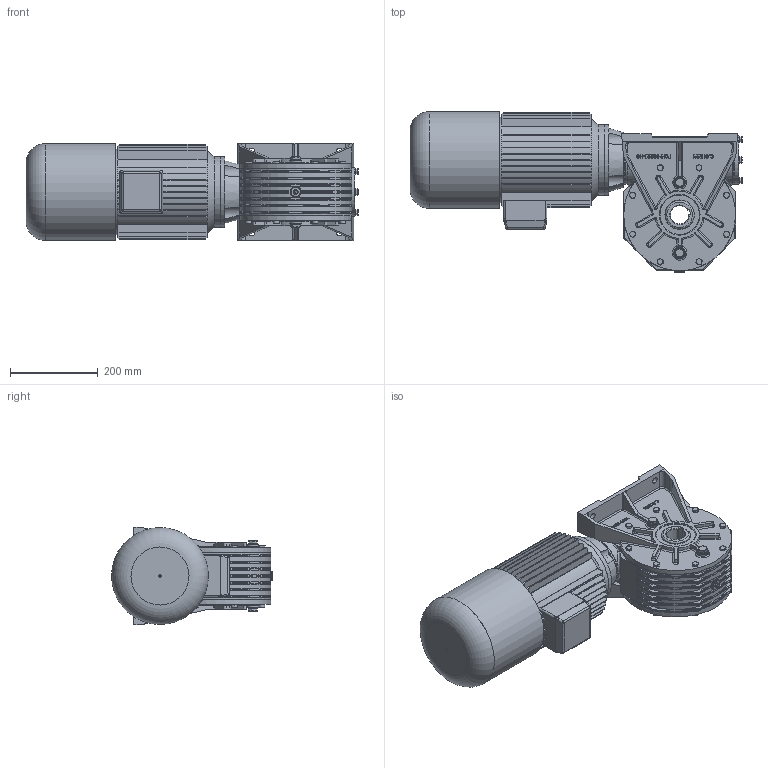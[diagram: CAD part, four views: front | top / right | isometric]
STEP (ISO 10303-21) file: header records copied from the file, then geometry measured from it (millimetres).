
FILE_DESCRIPTION((''),'2;1');
FILE_NAME('Y:\Archivi Inventor\Prog_01\GRAND_60\FIGURINI\MRV60 sito\112M AUTOFRENANTE\MRV60_P1_112M_B14.stp','2013-02-08T14:36:16',('tech3'),(''),'Autodesk Inventor 2013','Autodesk Inventor 2013','');
FILE_SCHEMA(('AUTOMOTIVE_DESIGN { 1 0 10303 214 1 1 1 1 }'));
Length unit declared in the file: millimetre
Products named in the file (18): MRV60_100L_112M_B14.iam<Livello di dettaglio1>; MRV60_FIG; 0106001.A0 figurino; 0106010.A0 figurino; 0106009; UNI 5739 M8 x 20; figurino corona; PARAOLIO 65x90x10; 0106028; 0106029; UNI 5739 M8 x 25; Guarnizione 3_8 GAS; Tappo3_8 GAS; Tappo 3_8 GAS_esagn_incsst; DIN EN ISO 4762 M8 x 16; UNI 8839 A 8; 0106006; motori B14 brake 112
Assembly tree (53 placements, depth 3):
  MRV60_100L_112M_B14.iam<Livello di dettaglio1>
    MRV60_FIG
      0106001.A0 figurino
      0106010.A0 figurino  x2
      0106009
      UNI 5739 M8 x 20  x4
      figurino corona
      PARAOLIO 65x90x10  x2
      0106028
      0106029  x2
      UNI 5739 M8 x 25  x8
      Guarnizione 3_8 GAS  x6
      Tappo3_8 GAS  x4
      Tappo 3_8 GAS_esagn_incsst  x2
      DIN EN ISO 4762 M8 x 16  x12
      UNI 8839 A 8  x4
    0106006
    motori B14 brake 112
Bounding box: 757.35 x 367 x 221.7 mm (x, y, z)
Volume: 17238175.1 mm3; surface area: 1766762.4 mm2
Topology: 53 solids, 57 shells, 2669 faces, 6580 edges, 4056 vertices
Faces by surface type: plane 1160, cylinder 611, bspline 564, cone 161, torus 125, sphere 48
Full cylindrical faces by diameter (mm): 2 x2, 5 x1, 6.647 x28, 8 x26, 8.5 x40, 8.75 x4, 9 x4, 11.63 x12, 13 x12, 13.046 x4, 14 x4, 14.95 x6, 16.3 x6, 16.5 x2, 22 x12, 25 x6, 28 x1, 42 x1, 65 x2, 70 x1, 72.881 x2, 80 x5, 83.5 x2, 90 x5, 109 x1, 109.5 x1, 110 x6, 114 x2, 160 x2, 194.48 x1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
Entity records: 57993 total; most frequent: CARTESIAN_POINT 19445, ORIENTED_EDGE 7830, DIRECTION 7183, EDGE_CURVE 3915, AXIS2_PLACEMENT_3D 2648, VERTEX_POINT 2524, EDGE_LOOP 2001, VECTOR 1887
